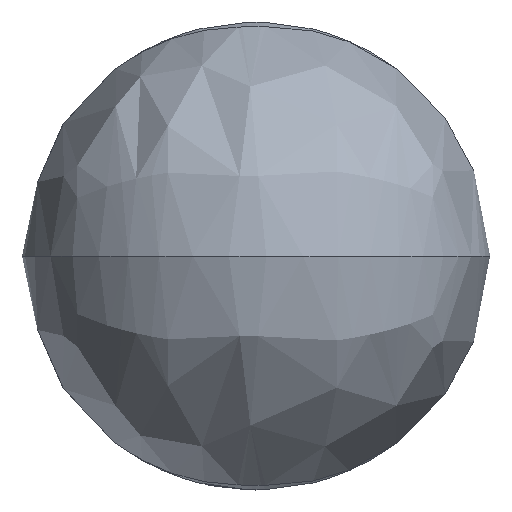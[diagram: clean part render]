
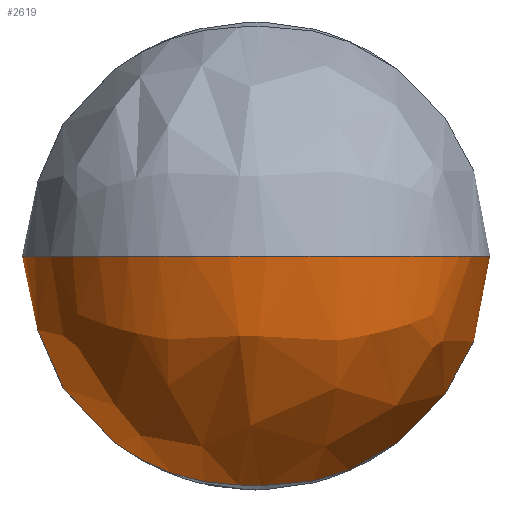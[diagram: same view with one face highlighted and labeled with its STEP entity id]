
A CAD part, left-side view. The second image highlights one B-rep face of the part: STEP entity #2619.
In plain terms, the highlighted free-form (B-spline) face has degree [3, 3] with [4, 4] control points.
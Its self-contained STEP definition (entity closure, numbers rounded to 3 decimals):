
#29 = VERTEX_POINT ( 'NONE', #307 ) ;
#118 = VERTEX_POINT ( 'NONE', #817 ) ;
#307 = CARTESIAN_POINT ( 'NONE',  ( 1.122, 0.25, 0. ) ) ;
#817 = CARTESIAN_POINT ( 'NONE',  ( 1.122, 0., -0.25 ) ) ;
#1385 =( BOUNDED_CURVE ( )  B_SPLINE_CURVE ( 3, ( #1386, #1387, #1388, #1389 ),
 .UNSPECIFIED., .F., .T. ) 
 B_SPLINE_CURVE_WITH_KNOTS ( ( 4, 4 ),
 ( 0., 1. ),
 .UNSPECIFIED. ) 
 CURVE ( )  GEOMETRIC_REPRESENTATION_ITEM ( )  RATIONAL_B_SPLINE_CURVE ( ( 1., 0.333, 0.333, 1. ) ) 
 REPRESENTATION_ITEM ( '' )  );
#1386 = CARTESIAN_POINT ( 'NONE',  ( 0., 1.15, 0. ) ) ;
#1387 = CARTESIAN_POINT ( 'NONE',  ( -2.3, 1.15, 0. ) ) ;
#1388 = CARTESIAN_POINT ( 'NONE',  ( -2.3, -1.15, 0. ) ) ;
#1389 = CARTESIAN_POINT ( 'NONE',  ( 0., -1.15, 0. ) ) ;
#1720 = CARTESIAN_POINT ( 'NONE',  ( 0., -1.15, 0. ) ) ;
#2230 = EDGE_CURVE ( 'NONE', #4951, #29, #2915, .T. ) ;
#2355 = ORIENTED_EDGE ( 'NONE', *, *, #2230, .T. ) ;
#2460 = EDGE_LOOP ( 'NONE', ( #5816, #2355, #5588, #5866, #5503 ) ) ;
#2619 = ADVANCED_FACE ( 'NONE', ( #3219 ), #3220, .F. ) ;
#2666 = CARTESIAN_POINT ( 'NONE',  ( 1.122, -0.25, 0. ) ) ;
#2910 = CIRCLE ( 'NONE', #2911, 0.25 ) ;
#2911 = AXIS2_PLACEMENT_3D ( 'NONE', #2912, #2913, #2914 ) ;
#2912 = CARTESIAN_POINT ( 'NONE',  ( 1.122, 0., 0. ) ) ;
#2913 = DIRECTION ( 'NONE',  ( 1., 0., 0. ) ) ;
#2914 = DIRECTION ( 'NONE',  ( 0., 1., 0. ) ) ;
#2915 =( BOUNDED_CURVE ( )  B_SPLINE_CURVE ( 3, ( #2916, #2917, #2918, #2919 ),
 .UNSPECIFIED., .F., .T. ) 
 B_SPLINE_CURVE_WITH_KNOTS ( ( 4, 4 ),
 ( 0., 0.445 ),
 .UNSPECIFIED. ) 
 CURVE ( )  GEOMETRIC_REPRESENTATION_ITEM ( )  RATIONAL_B_SPLINE_CURVE ( ( 1., 0.703, 0.539, 0.506 ) ) 
 REPRESENTATION_ITEM ( '' )  );
#2916 = CARTESIAN_POINT ( 'NONE',  ( 0., 1.15, 0. ) ) ;
#2917 = CARTESIAN_POINT ( 'NONE',  ( 0.485, 1.15, 0. ) ) ;
#2918 = CARTESIAN_POINT ( 'NONE',  ( 0.985, 0.868, 0. ) ) ;
#2919 = CARTESIAN_POINT ( 'NONE',  ( 1.122, 0.25, 0. ) ) ;
#3107 = CARTESIAN_POINT ( 'NONE',  ( 0., 1.15, 0. ) ) ;
#3219 = FACE_OUTER_BOUND ( 'NONE', #2460, .T. ) ;
#3220 =( BOUNDED_SURFACE ( )  B_SPLINE_SURFACE ( 3, 3, ( 
 ( #3221, #3224, #3225, #3226 ),
 ( #3227, #3228, #3229, #3230 ),
 ( #3231, #3232, #3233, #3234 ),
 ( #3235, #3236, #3237, #3238 ) ),
 .UNSPECIFIED., .F., .F., .T. ) 
 B_SPLINE_SURFACE_WITH_KNOTS ( ( 4, 4 ),
 ( 4, 4 ),
 ( 0., 1. ),
 ( 0., 1. ),
 .UNSPECIFIED. ) 
 GEOMETRIC_REPRESENTATION_ITEM ( )  RATIONAL_B_SPLINE_SURFACE ( (
 ( 1., 0.333, 0.333, 1.),
 ( 0.333, 0.111, 0.111, 0.333),
 ( 0.333, 0.111, 0.111, 0.333),
 ( 1., 0.333, 0.333, 1.) ) ) 
 REPRESENTATION_ITEM ( '' )  SURFACE ( )  );
#3221 = CARTESIAN_POINT ( 'NONE',  ( 0., 1.15, 0. ) ) ;
#3224 = CARTESIAN_POINT ( 'NONE',  ( 0., 1.15, 0. ) ) ;
#3225 = CARTESIAN_POINT ( 'NONE',  ( 0., 1.15, 0. ) ) ;
#3226 = CARTESIAN_POINT ( 'NONE',  ( 0., 1.15, 0. ) ) ;
#3227 = CARTESIAN_POINT ( 'NONE',  ( -2.3, 1.15, 0. ) ) ;
#3228 = CARTESIAN_POINT ( 'NONE',  ( -2.3, 1.15, -4.6 ) ) ;
#3229 = CARTESIAN_POINT ( 'NONE',  ( 2.3, 1.15, -4.6 ) ) ;
#3230 = CARTESIAN_POINT ( 'NONE',  ( 2.3, 1.15, 0. ) ) ;
#3231 = CARTESIAN_POINT ( 'NONE',  ( -2.3, -1.15, 0. ) ) ;
#3232 = CARTESIAN_POINT ( 'NONE',  ( -2.3, -1.15, -4.6 ) ) ;
#3233 = CARTESIAN_POINT ( 'NONE',  ( 2.3, -1.15, -4.6 ) ) ;
#3234 = CARTESIAN_POINT ( 'NONE',  ( 2.3, -1.15, 0. ) ) ;
#3235 = CARTESIAN_POINT ( 'NONE',  ( 0., -1.15, 0. ) ) ;
#3236 = CARTESIAN_POINT ( 'NONE',  ( 0., -1.15, 0. ) ) ;
#3237 = CARTESIAN_POINT ( 'NONE',  ( 0., -1.15, 0. ) ) ;
#3238 = CARTESIAN_POINT ( 'NONE',  ( 0., -1.15, 0. ) ) ;
#3668 =( BOUNDED_CURVE ( )  B_SPLINE_CURVE ( 3, ( #3669, #3670, #3671, #3672 ),
 .UNSPECIFIED., .F., .T. ) 
 B_SPLINE_CURVE_WITH_KNOTS ( ( 4, 4 ),
 ( 0.555, 1. ),
 .UNSPECIFIED. ) 
 CURVE ( )  GEOMETRIC_REPRESENTATION_ITEM ( )  RATIONAL_B_SPLINE_CURVE ( ( 0.506, 0.539, 0.703, 1. ) ) 
 REPRESENTATION_ITEM ( '' )  );
#3669 = CARTESIAN_POINT ( 'NONE',  ( 1.122, -0.25, 0. ) ) ;
#3670 = CARTESIAN_POINT ( 'NONE',  ( 0.985, -0.868, 0. ) ) ;
#3671 = CARTESIAN_POINT ( 'NONE',  ( 0.485, -1.15, 0. ) ) ;
#3672 = CARTESIAN_POINT ( 'NONE',  ( 0., -1.15, 0. ) ) ;
#4181 = CIRCLE ( 'NONE', #4182, 0.25 ) ;
#4182 = AXIS2_PLACEMENT_3D ( 'NONE', #4183, #4184, #4185 ) ;
#4183 = CARTESIAN_POINT ( 'NONE',  ( 1.122, 0., 0. ) ) ;
#4184 = DIRECTION ( 'NONE',  ( 1., 0., 0. ) ) ;
#4185 = DIRECTION ( 'NONE',  ( 0., 1., 0. ) ) ;
#4951 = VERTEX_POINT ( 'NONE', #3107 ) ;
#5469 = EDGE_CURVE ( 'NONE', #5809, #5700, #3668, .T. ) ;
#5503 = ORIENTED_EDGE ( 'NONE', *, *, #5469, .T. ) ;
#5572 = EDGE_CURVE ( 'NONE', #118, #29, #4181, .T. ) ;
#5588 = ORIENTED_EDGE ( 'NONE', *, *, #5572, .F. ) ;
#5672 = EDGE_CURVE ( 'NONE', #4951, #5700, #1385, .T. ) ;
#5700 = VERTEX_POINT ( 'NONE', #1720 ) ;
#5809 = VERTEX_POINT ( 'NONE', #2666 ) ;
#5816 = ORIENTED_EDGE ( 'NONE', *, *, #5672, .F. ) ;
#5838 = EDGE_CURVE ( 'NONE', #5809, #118, #2910, .T. ) ;
#5866 = ORIENTED_EDGE ( 'NONE', *, *, #5838, .F. ) ;
